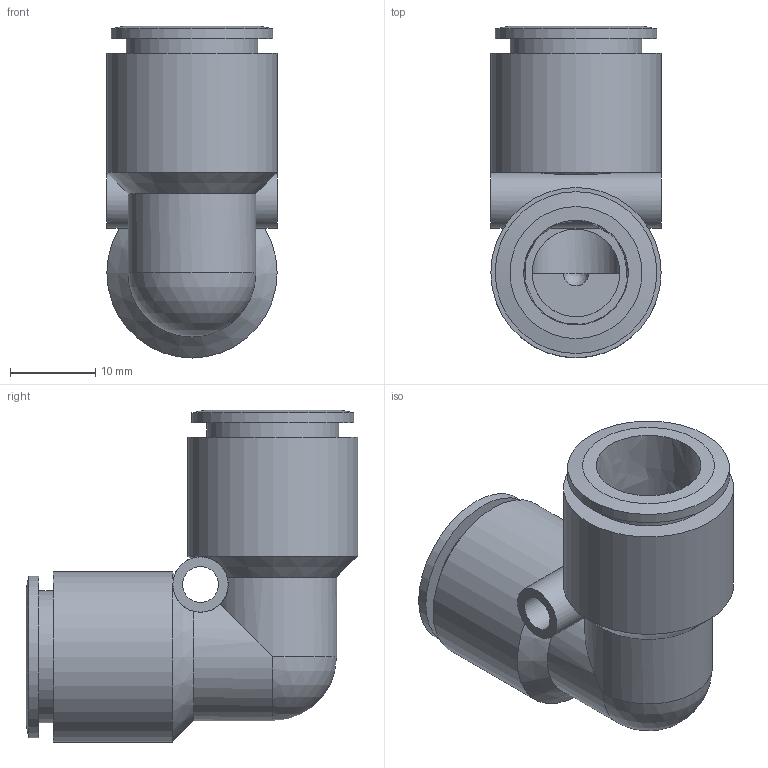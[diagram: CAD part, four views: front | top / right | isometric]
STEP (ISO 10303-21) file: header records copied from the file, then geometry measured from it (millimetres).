
FILE_DESCRIPTION((''),'2;1');
FILE_NAME('C:\Documents and Settings\rivolro1\Documenti\copia di Raccordi\PLASTICA\T04XX00\T041200.stp','2007-10-30T15:36:53',('Rivolro1'),(''),'Autodesk Inventor 2008','Autodesk Inventor 2008','');
FILE_SCHEMA(('AUTOMOTIVE_DESIGN { 1 0 10303 214 1 1 1 1 }'));
Length unit declared in the file: millimetre
Products named in the file (1): T041200
Bounding box: 20 x 39 x 39 mm (x, y, z)
Volume: 8627.7 mm3; surface area: 6633 mm2
Topology: 1 solids, 1 shells, 34 faces, 78 edges, 50 vertices
Faces by surface type: cylinder 14, plane 10, bspline 5, cone 4, sphere 1
Full cylindrical faces by diameter (mm): 4.2 x1, 6.5 x1, 10.3 x2, 15.5 x2, 19 x2, 20 x2
Entity records: 1163 total; most frequent: CARTESIAN_POINT 478, DIRECTION 138, ORIENTED_EDGE 98, AXIS2_PLACEMENT_3D 67, EDGE_LOOP 61, EDGE_CURVE 49, VERTEX_POINT 40, CIRCLE 34
